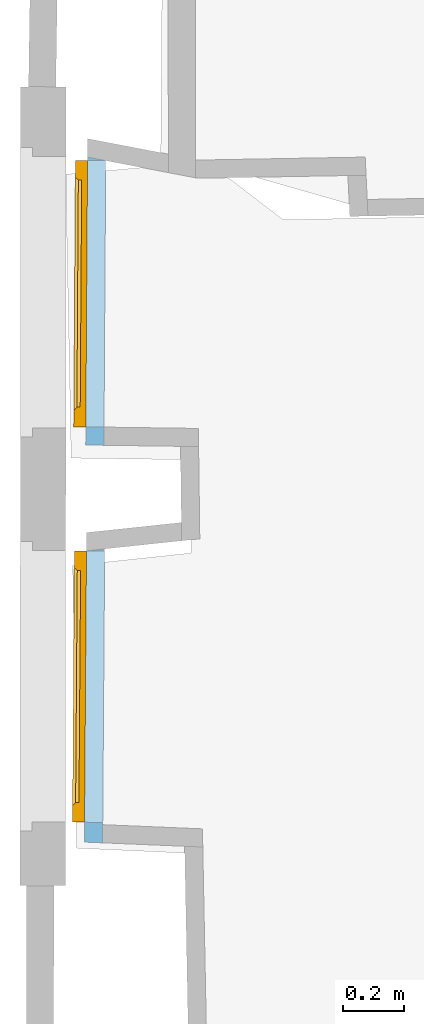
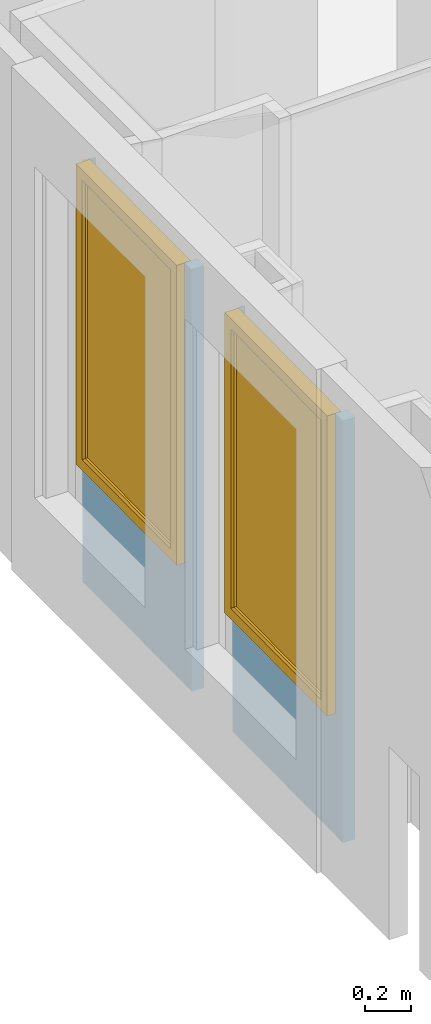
# One storey, part 44 of 72: 2 windows, 2 openings, plus 2 elements that do not belong to this part.
"""IFC2X3 building model written with IfcOpenShell, lengths in centimetres."""

from ifc_helpers import new_model, entity, si_unit, converted_unit, direction, frame, origin, origin_with_axes, place, context, subcontext, project, spatial, polyline, outline, extrude, faceted_brep, shape, source, transform, mapped, material, material_list, layer, layer_set, layer_usage, type_object, element, fill, save


model = new_model("IFC2X3")

# Units and contexts
model_context = context("Model", 3, precision=0.0001, world=origin(), true_north=direction((0.225632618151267, 0.974212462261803, 0.0)))
body_context = subcontext(model_context, "Body", "Model", "MODEL_VIEW")
footprint_context = subcontext(model_context, "FootPrint", "Model", "MODEL_VIEW")
profile_context = subcontext(model_context, "Profile", "Model", "MODEL_VIEW")
ifc_project = project(units=[si_unit("LENGTHUNIT", "METRE", prefix="CENTI"), si_unit("AREAUNIT", "SQUARE_METRE", prefix="CENTI"), si_unit("VOLUMEUNIT", "CUBIC_METRE", prefix="CENTI"), converted_unit("PLANEANGLEUNIT", "DEGREE", entity("IfcRatioMeasure", 0.0174532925), si_unit("PLANEANGLEUNIT", "RADIAN"), dimensions=[0, 0, 0, 0, 0, 0, 0])], contexts=[model_context])

# Site, building, storey
site_placement = place(None, origin_with_axes())
site = spatial("IfcSite", under=ifc_project, at=site_placement, Name="Default Site", CompositionType="ELEMENT")
building_placement = place(site_placement, origin_with_axes())
building = spatial("IfcBuilding", under=site, at=building_placement, Name="Default Building", CompositionType="ELEMENT")
storey_placement = place(building_placement, frame((0.0, 0.0, 853.910374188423), z_axis=(0.0, 0.0, 1.0), x_axis=(1.0, 0.0, 0.0)))
storey = spatial("IfcBuildingStorey", under=building, at=storey_placement, Name="Niveau 2", CompositionType="ELEMENT", Elevation=853.910374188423)

# Wall, opening, window
ifc_material_1 = material(Name="<aucun>")
ifc_layer = layer(ifc_material_1, 6.0)
ifc_layer_set = layer_set([ifc_layer], Name="default")
ifc_layer_usage_1 = layer_usage(ifc_layer_set, "AXIS2", "POSITIVE", -3.0)
wall_type = type_object("IfcWallType", Name="default 60", PredefinedType="NOTDEFINED", material=ifc_layer_set)
wall_1_placement = place(storey_placement, frame((-1335.77542990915, -44.5581791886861, 1.4210854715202e-12), z_axis=(0.0, 0.0, 1.0), x_axis=(0.00636364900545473, 0.999979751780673, 0.0)))
wall_1 = element("IfcWallStandardCase", 1, at=wall_1_placement, inside=storey, type_object=wall_type, material=ifc_layer_usage_1, Name="Enveloppe 176069", context=body_context, shape_type="SweptSolid", body=[
    extrude(outline(polyline([(-5.95347494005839, 3.00000000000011), (-6.0001817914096, -3.00000000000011), (87.9552161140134, -2.99999999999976), (89.0663379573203, 3.00000000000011), (-5.95347494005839, 3.00000000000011)])), frame((0.0, 0.0, -8.88178419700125e-13), z_axis=(0.0, 0.0, 1.0), x_axis=(1.0, 0.0, 0.0)), (0.0, 0.0, 1.0), 221.999999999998),
])
opening_1_placement = place(wall_1_placement, frame((-3.5527136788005e-14, 2.27373675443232e-13, 63.9999999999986), z_axis=(0.0, 0.0, 1.0), x_axis=(-1.0, 3.27862736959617e-16, 0.0)))
cartesian_point_1 = entity("IfcCartesianPoint", [-1.11022302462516e-14, 1.77635683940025e-13, 158.0])
cartesian_point_2 = entity("IfcCartesianPoint", [-87.9552161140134, -2.99999999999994])
opening_1 = element("IfcOpeningElement", 2, at=opening_1_placement, cuts=wall_1, Name="4294966501_11", ObjectType="Opening", shapes=[
    shape(body_context, "Body", "SweptSolid", [extrude(outline(polyline([(1.11022302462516e-14, 158.0), (0.0, 0.0), (87.9552161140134, 0.0), (87.9552161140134, 158.0), (1.11022302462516e-14, 158.0)])), frame((0.0, -13.0, 0.0), z_axis=(0.0, 1.0, 0.0), x_axis=(-1.0, 0.0, 0.0)), (0.0, 0.0, 1.0), 26.0)]),
    shape(profile_context, "Profile", "GeometricCurveSet", [entity("IfcGeometricCurveSet", [entity("IfcPolyline", [cartesian_point_1, entity("IfcCartesianPoint", [0.0, 1.77635683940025e-13, 0.0]), entity("IfcCartesianPoint", [-87.9552161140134, 3.5527136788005e-13, 0.0]), entity("IfcCartesianPoint", [-87.9552161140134, 3.5527136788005e-13, 158.0]), cartesian_point_1])])]),
    shape(footprint_context, "FootPrint", "GeometricCurveSet", [entity("IfcGeometricCurveSet", [entity("IfcPolyline", [cartesian_point_2, entity("IfcCartesianPoint", [0.0, -2.99999999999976]), entity("IfcCartesianPoint", [-1.11022302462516e-14, 3.00000000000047]), entity("IfcCartesianPoint", [-87.9552161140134, 3.00000000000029]), cartesian_point_2])])]),
])
ifc_material_2 = material(Name="Transparent")
ifc_material_3 = material(Name="Blanc trafic")
ifc_material_list = material_list([ifc_material_2, ifc_material_3])
window_style = type_object("IfcWindowStyle", Name="F[R] VV", ConstructionType="NOTDEFINED", OperationType="SINGLE_PANEL", ParameterTakesPrecedence=True, Sizeable=False, material=ifc_material_list)
shared_shape_1 = source(origin_with_axes(), body_context, "Body", "Brep", [
    faceted_brep([(-38.4776085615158, 152.499997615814, -7.00000002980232), (-37.4776089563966, 151.499998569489, -6.00000042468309), (-37.4776089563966, 6.49999976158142, -6.00000042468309), (-38.4776085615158, 5.49999997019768, -7.00000002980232), (-37.4776095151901, 151.499998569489, -5.99999986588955), (-37.4776095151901, 151.499998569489, -0.999999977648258), (-37.4776095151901, 6.49999976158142, -0.999999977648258), (-37.4776095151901, 6.49999976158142, -5.99999986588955), (-38.4776090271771, 152.499997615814, -4.65661287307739e-07), (-38.4776090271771, 5.49999997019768, -4.65661291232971e-07), (-37.4776095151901, 6.49999976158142, -0.999999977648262), (-38.4776085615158, 152.499997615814, 0.0), (-43.9776092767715, 158.000004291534, 0.0), (-43.9776092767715, 0.0, 0.0), (-38.4776085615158, 5.49999997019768, 0.0), (-43.9776092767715, 158.000004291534, -7.00000002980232), (-43.9776092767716, 7.80123511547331e-31, -7.00000002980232), (-43.9776092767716, 7.80123511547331e-31, 0.0), (-43.9776092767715, 0.0, -7.00000002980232), (-37.4776095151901, 6.49999994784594, -6.00000005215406), (37.4776095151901, 6.49999994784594, -6.00000005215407), (38.4776085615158, 5.49999997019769, -7.00000002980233), (37.4776095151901, 6.49999976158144, -0.999999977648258), (37.4776095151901, 6.49999976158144, -5.99999986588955), (-38.4776085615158, 5.49999987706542, -9.31322579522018e-08), (38.4776085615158, 5.49999987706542, -9.31322530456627e-08), (37.4776095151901, 6.49999976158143, -0.999999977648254), (43.9776092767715, 0.0, 0.0), (38.4776085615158, 5.49999997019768, 0.0), (43.9776092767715, 0.0, -7.00000002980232), (38.4776085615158, 5.49999997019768, -7.00000002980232), (37.4776089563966, 6.49999976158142, -6.00000042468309), (37.4776089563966, 151.499998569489, -6.00000042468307), (38.4776085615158, 152.499997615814, -7.0000000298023), (37.4776095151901, 6.49999976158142, -5.99999986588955), (37.4776095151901, 6.49999976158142, -0.999999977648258), (37.4776095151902, 151.499998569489, -0.999999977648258), (37.4776095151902, 151.499998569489, -5.99999986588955), (38.4776090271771, 5.49999997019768, -4.65661287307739e-07), (38.4776090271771, 152.499997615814, -4.65661310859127e-07), (37.4776095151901, 151.499998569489, -0.999999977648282), (43.9776092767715, 158.000004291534, 0.0), (38.4776085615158, 152.499997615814, 0.0), (43.9776092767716, 158.000004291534, -7.00000002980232), (43.9776092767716, 158.000004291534, 0.0), (38.4776085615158, 152.499997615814, -7.00000002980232), (43.9776092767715, 158.000004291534, -7.00000002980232), (37.4776095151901, 151.499998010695, -6.00000042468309), (-37.4776095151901, 151.499998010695, -6.00000042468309), (37.4776095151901, 151.499998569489, -5.99999986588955), (37.4776095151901, 151.499998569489, -0.999999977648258), (-37.4776095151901, 151.499998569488, -0.999999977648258), (-37.4776095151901, 151.499998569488, -5.99999986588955), (38.4776085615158, 152.499998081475, -4.65661295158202e-07), (-38.4776085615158, 152.499998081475, -4.65661295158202e-07)], [[[0, 1, 2, 3]], [[4, 5, 6, 7]], [[5, 8, 9, 10]], [[11, 12, 13, 14]], [[12, 15, 16, 17]], [[15, 0, 3, 18]], [[3, 19, 20, 21]], [[7, 6, 22, 23]], [[6, 24, 25, 26]], [[14, 13, 27, 28]], [[13, 18, 29, 27]], [[18, 3, 30, 29]], [[30, 31, 32, 33]], [[34, 35, 36, 37]], [[35, 38, 39, 40]], [[28, 27, 41, 42]], [[27, 29, 43, 44]], [[29, 30, 45, 46]], [[45, 47, 48, 0]], [[49, 50, 51, 52]], [[50, 53, 54, 5]], [[42, 41, 12, 11]], [[41, 46, 15, 12]], [[46, 45, 0, 15]]]),
    faceted_brep([(37.4776095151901, 151.499998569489, -4.89999987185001), (37.4776095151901, 6.49999976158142, -4.89999987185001), (-37.4776095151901, 6.49999976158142, -4.89999987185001), (-37.4776095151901, 151.499998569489, -4.89999987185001), (-37.4776095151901, 151.499998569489, -2.09999997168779), (-37.4776095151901, 6.49999976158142, -2.09999997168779), (37.4776095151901, 6.49999976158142, -2.09999997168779), (37.4776095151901, 151.499998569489, -2.09999997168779)], [[[0, 1, 2, 3]], [[4, 5, 6, 7]], [[3, 2, 5, 4]], [[2, 1, 6, 5]], [[1, 0, 7, 6]], [[0, 3, 4, 7]]]),
])
window_1_placement = place(opening_1_placement, frame((-87.9552161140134, 4.54747350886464e-13, 1.4210854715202e-14), z_axis=(0.0, 0.0, 1.0), x_axis=(1.0, 0.0, 0.0)))
window_1 = element("IfcWindow", 3, at=window_1_placement, inside=storey, type_object=window_style, material=ifc_material_list, Name="Fenêtre 1705934", OverallHeight=158.0, OverallWidth=87.9552161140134, context=body_context, shape_type="MappedRepresentation", body=[
    mapped(shared_shape_1, transform((43.9776080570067, 0.0, 0.0), x_axis=(-1.0, 0.0, 0.0), y_axis=(0.0, 0.0, 1.0), z_axis=(0.0, 1.0, 0.0), scale=1.0, scale2=1.0, scale3=1.0, uniform=False)),
])
fill(opening_1, window_1)

ifc_layer_usage_2 = layer_usage(ifc_layer_set, "AXIS2", "POSITIVE", -3.0)
wall_2_placement = place(storey_placement, frame((-1336.20455837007, -175.585674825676, 1.4210854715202e-12), z_axis=(0.0, 0.0, 1.0), x_axis=(0.0071444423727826, 0.999974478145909, 0.0)))
wall_2 = element("IfcWallStandardCase", 4, at=wall_2_placement, inside=storey, type_object=wall_type, material=ifc_layer_usage_2, Name="Enveloppe 176262", context=body_context, shape_type="SweptSolid", body=[
    extrude(outline(polyline([(-5.99692213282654, 2.99999999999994), (-6.20419420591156, -2.99999999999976), (90.8214123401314, -2.99999999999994), (90.1424832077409, 2.99999999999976), (-5.99692213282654, 2.99999999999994)])), frame((0.0, 0.0, 1.77635683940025e-13), z_axis=(0.0, 0.0, 1.0), x_axis=(1.0, 0.0, 0.0)), (0.0, 0.0, 1.0), 221.999999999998),
])
opening_2_placement = place(wall_2_placement, frame((0.56182640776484, 2.27373675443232e-13, 63.9999999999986), z_axis=(0.0, 0.0, 1.0), x_axis=(-1.0, 1.71477415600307e-15, 0.0)))
cartesian_point_3 = entity("IfcCartesianPoint", [0.0, 0.0, 158.000003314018])
cartesian_point_4 = entity("IfcCartesianPoint", [-89.568901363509, -3.00000000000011])
opening_2 = element("IfcOpeningElement", 5, at=opening_2_placement, cuts=wall_2, Name="4294966504_11", ObjectType="Opening", shapes=[
    shape(body_context, "Body", "SweptSolid", [extrude(outline(polyline([(0.0, 158.000003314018), (0.0, 0.0), (89.568901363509, 0.0), (89.568901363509, 158.000003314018), (0.0, 158.000003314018)])), frame((0.0, -13.0, 0.0), z_axis=(0.0, 1.0, 0.0), x_axis=(-1.0, 0.0, 0.0)), (0.0, 0.0, 1.0), 26.0)]),
    shape(profile_context, "Profile", "GeometricCurveSet", [entity("IfcGeometricCurveSet", [entity("IfcPolyline", [cartesian_point_3, entity("IfcCartesianPoint", [0.0, 0.0, 0.0]), entity("IfcCartesianPoint", [-89.568901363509, -3.5527136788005e-13, 0.0]), entity("IfcCartesianPoint", [-89.568901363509, -3.5527136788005e-13, 158.000003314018]), cartesian_point_3])])]),
    shape(footprint_context, "FootPrint", "GeometricCurveSet", [entity("IfcGeometricCurveSet", [entity("IfcPolyline", [cartesian_point_4, entity("IfcCartesianPoint", [0.0, -3.00000000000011]), entity("IfcCartesianPoint", [-2.22044604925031e-14, 2.99999999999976]), entity("IfcCartesianPoint", [-89.568901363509, 2.99999999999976]), cartesian_point_4])])]),
])
shared_shape_2 = source(origin_with_axes(), body_context, "Body", "Brep", [
    faceted_brep([(-39.2844498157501, 152.499997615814, -7.00000002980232), (-38.2844502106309, 151.499998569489, -6.00000042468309), (-38.2844502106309, 6.49999976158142, -6.00000042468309), (-39.2844498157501, 5.49999997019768, -7.00000002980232), (-38.2844507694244, 151.499998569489, -5.99999986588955), (-38.2844507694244, 151.499998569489, -0.999999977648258), (-38.2844507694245, 6.49999976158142, -0.999999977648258), (-38.2844507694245, 6.49999976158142, -5.99999986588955), (-39.2844502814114, 152.499997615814, -4.65661287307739e-07), (-39.2844502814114, 5.49999997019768, -4.65661291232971e-07), (-38.2844507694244, 6.49999976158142, -0.999999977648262), (-39.2844498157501, 152.499997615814, 0.0), (-44.7844505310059, 158.000004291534, 0.0), (-44.7844505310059, 0.0, 0.0), (-39.2844498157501, 5.49999997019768, 0.0), (-44.7844505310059, 158.000004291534, -7.00000002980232), (-44.7844505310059, 7.80123511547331e-31, -7.00000002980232), (-44.7844505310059, 7.80123511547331e-31, 0.0), (-44.7844505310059, 0.0, -7.00000002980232), (-38.2844507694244, 6.49999994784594, -6.00000005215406), (38.2844507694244, 6.49999994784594, -6.00000005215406), (39.2844498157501, 5.49999997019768, -7.00000002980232), (-38.2844507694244, 6.49999976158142, -5.99999986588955), (-38.2844507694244, 6.49999976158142, -0.999999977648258), (38.2844507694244, 6.49999976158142, -0.999999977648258), (38.2844507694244, 6.49999976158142, -5.99999986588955), (-39.2844498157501, 5.49999987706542, -9.31322579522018e-08), (39.2844498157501, 5.49999987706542, -9.31322530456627e-08), (38.2844507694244, 6.49999976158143, -0.999999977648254), (44.7844505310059, 0.0, 0.0), (39.2844498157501, 5.49999997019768, 0.0), (44.7844505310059, 0.0, -7.00000002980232), (38.2844502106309, 6.49999976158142, -6.00000042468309), (38.2844502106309, 151.499998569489, -6.00000042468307), (39.2844498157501, 152.499997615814, -7.0000000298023), (38.2844507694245, 151.499998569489, -0.999999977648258), (38.2844507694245, 151.499998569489, -5.99999986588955), (39.2844502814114, 5.49999997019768, -4.65661287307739e-07), (39.2844502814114, 152.499997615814, -4.65661310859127e-07), (38.2844507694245, 151.499998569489, -0.999999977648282), (44.7844505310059, 158.000004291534, 0.0), (39.2844498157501, 152.499997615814, 0.0), (44.7844505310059, 158.000004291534, -7.00000002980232), (39.2844498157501, 152.499997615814, -7.00000002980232), (38.2844507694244, 151.499998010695, -6.00000042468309), (-38.2844507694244, 151.499998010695, -6.00000042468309), (38.2844507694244, 151.499998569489, -5.99999986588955), (38.2844507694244, 151.499998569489, -0.999999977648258), (39.2844498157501, 152.499998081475, -4.65661295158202e-07), (-39.2844498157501, 152.499998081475, -4.65661295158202e-07)], [[[0, 1, 2, 3]], [[4, 5, 6, 7]], [[5, 8, 9, 10]], [[11, 12, 13, 14]], [[12, 15, 16, 17]], [[15, 0, 3, 18]], [[3, 19, 20, 21]], [[22, 23, 24, 25]], [[23, 26, 27, 28]], [[14, 13, 29, 30]], [[13, 18, 31, 29]], [[18, 3, 21, 31]], [[21, 32, 33, 34]], [[25, 24, 35, 36]], [[24, 37, 38, 39]], [[30, 29, 40, 41]], [[29, 31, 42, 40]], [[31, 21, 43, 42]], [[43, 44, 45, 0]], [[46, 47, 5, 4]], [[47, 48, 49, 5]], [[41, 40, 12, 11]], [[40, 42, 15, 12]], [[42, 43, 0, 15]]]),
    faceted_brep([(38.2844507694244, 151.499998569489, -4.89999987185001), (38.2844507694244, 6.49999976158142, -4.89999987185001), (-38.2844507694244, 6.49999976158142, -4.89999987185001), (-38.2844507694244, 151.499998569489, -4.89999987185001), (-38.2844507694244, 151.499998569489, -2.09999997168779), (-38.2844507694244, 6.49999976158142, -2.09999997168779), (38.2844507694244, 6.49999976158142, -2.09999997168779), (38.2844507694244, 151.499998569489, -2.09999997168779), (-38.2844507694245, 6.49999976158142, -4.89999987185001), (-38.2844507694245, 6.49999976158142, -2.09999997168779), (38.2844507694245, 151.499998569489, -4.89999987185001), (38.2844507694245, 151.499998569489, -2.09999997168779)], [[[0, 1, 2, 3]], [[4, 5, 6, 7]], [[3, 8, 9, 4]], [[2, 1, 6, 5]], [[1, 10, 11, 6]], [[0, 3, 4, 7]]]),
])
window_2_placement = place(opening_2_placement, frame((-89.568901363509, 0.0, 0.0), z_axis=(0.0, 0.0, 1.0), x_axis=(1.0, 0.0, 0.0)))
window_2 = element("IfcWindow", 6, at=window_2_placement, inside=storey, type_object=window_style, material=ifc_material_list, Name="Fenêtre 1705931", OverallHeight=158.000003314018, OverallWidth=89.568901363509, context=body_context, shape_type="MappedRepresentation", body=[
    mapped(shared_shape_2, transform((44.7844506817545, 3.5527136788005e-13, 0.0), x_axis=(-1.0, 0.0, 0.0), y_axis=(0.0, 0.0, 1.0), z_axis=(0.0, 1.0, 0.0), scale=1.0, scale2=1.0, scale3=1.0, uniform=False)),
])
fill(opening_2, window_2)

save(model, "model.ifc")
